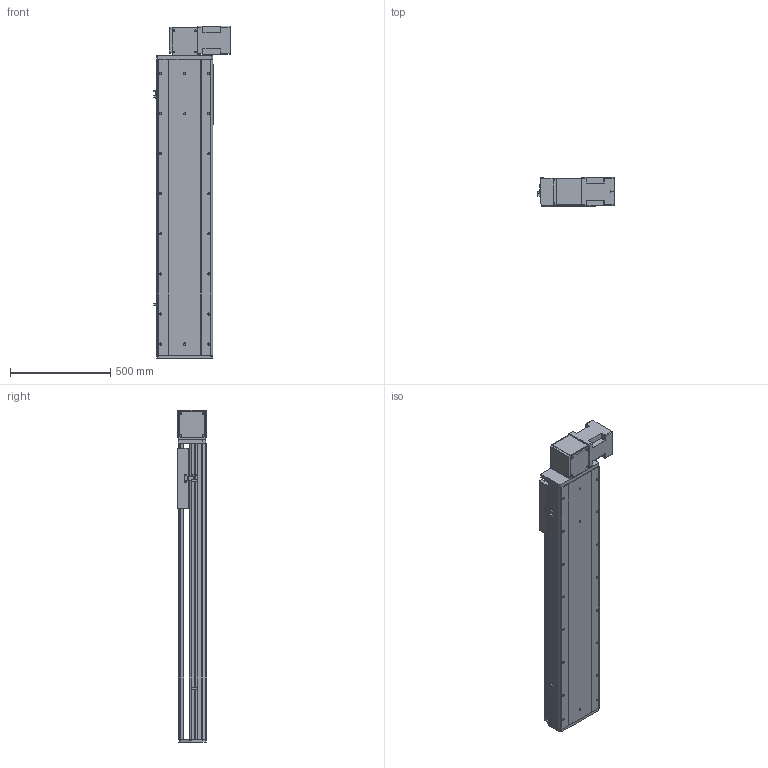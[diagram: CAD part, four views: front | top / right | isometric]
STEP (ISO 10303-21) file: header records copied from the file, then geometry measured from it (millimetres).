
FILE_DESCRIPTION (( 'STEP AP214' ), '1' );
FILE_NAME ('RTB28S-XX-1050-BL-M100-XX-C4.STEP', '2025-12-22T02:20:14', ( '' ), ( '' ), 'SwSTEP 2.0', 'SolidWorks 2018', '' );
FILE_SCHEMA (( 'AUTOMOTIVE_DESIGN' ));
Length unit declared in the file: millimetre
Products named in the file (4): RTB28S-GY-008^RTB28S-XX-XX-BL-M100-XX-C4; RTB28S-GY-011^RTB28S-XX-XX-BL-M100-XX-C4; RTB28S-XX-1050-BL-M100-XX-C4; RTB28S-GY-004^RTB28S-XX-XX-BL-M100-XX-C4
Assembly tree (3 placements, depth 2):
  RTB28S-XX-1050-BL-M100-XX-C4
    RTB28S-GY-011^RTB28S-XX-XX-BL-M100-XX-C4
    RTB28S-GY-004^RTB28S-XX-XX-BL-M100-XX-C4
    RTB28S-GY-008^RTB28S-XX-XX-BL-M100-XX-C4
Bounding box: 380.7 x 145 x 1657 mm (x, y, z)
Volume: 30403038.5 mm3; surface area: 2932120.7 mm2
Topology: 3 solids, 4 shells, 788 faces, 2088 edges, 1328 vertices
Faces by surface type: cylinder 359, plane 345, cone 80, torus 4
Entity records: 29513 total; most frequent: CARTESIAN_POINT 5002, DIRECTION 4422, ORIENTED_EDGE 4112, EDGE_CURVE 2056, AXIS2_PLACEMENT_3D 1596, VERTEX_POINT 1328, VECTOR 1230, LINE 1230
